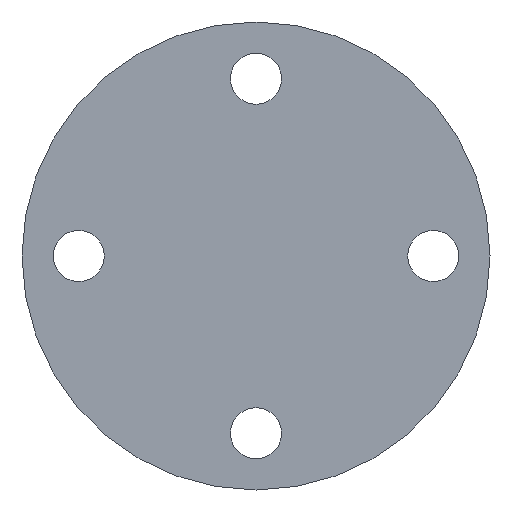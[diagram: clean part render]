
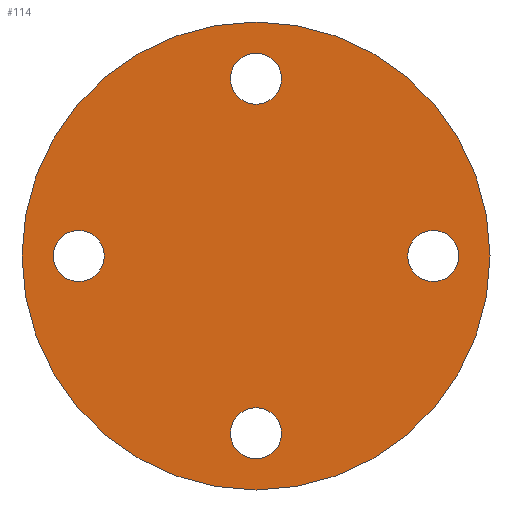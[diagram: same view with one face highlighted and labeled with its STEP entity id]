
A CAD part, front view. The second image highlights one B-rep face of the part: STEP entity #114.
In plain terms, the highlighted planar face has unit normal (0, -1, 0).
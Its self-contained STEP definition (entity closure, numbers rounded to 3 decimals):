
#13=PLANE($,#132);
#19=FACE_BOUND($,#43,.T.);
#20=FACE_BOUND($,#44,.T.);
#21=FACE_BOUND($,#45,.T.);
#22=FACE_BOUND($,#46,.T.);
#23=FACE_BOUND($,#47,.T.);
#43=EDGE_LOOP($,(#93));
#44=EDGE_LOOP($,(#94));
#45=EDGE_LOOP($,(#95));
#46=EDGE_LOOP($,(#96));
#47=EDGE_LOOP($,(#97));
#56=CIRCLE($,#122,9.);
#58=CIRCLE($,#125,9.);
#60=CIRCLE($,#128,9.);
#62=CIRCLE($,#131,9.);
#63=CIRCLE($,#133,82.5);
#66=VERTEX_POINT($,#177);
#68=VERTEX_POINT($,#182);
#70=VERTEX_POINT($,#187);
#72=VERTEX_POINT($,#192);
#73=VERTEX_POINT($,#195);
#76=EDGE_CURVE($,#66,#66,#56,.T.);
#78=EDGE_CURVE($,#68,#68,#58,.T.);
#80=EDGE_CURVE($,#70,#70,#60,.T.);
#82=EDGE_CURVE($,#72,#72,#62,.T.);
#83=EDGE_CURVE($,#73,#73,#63,.T.);
#93=ORIENTED_EDGE($,*,*,#76,.T.);
#94=ORIENTED_EDGE($,*,*,#78,.T.);
#95=ORIENTED_EDGE($,*,*,#80,.T.);
#96=ORIENTED_EDGE($,*,*,#82,.T.);
#97=ORIENTED_EDGE($,*,*,#83,.F.);
#114=ADVANCED_FACE($,(#19,#20,#21,#22,#23),#13,.T.);
#122=AXIS2_PLACEMENT_3D($,#178,#143,#144);
#125=AXIS2_PLACEMENT_3D($,#183,#149,#150);
#128=AXIS2_PLACEMENT_3D($,#188,#155,#156);
#131=AXIS2_PLACEMENT_3D($,#193,#161,#162);
#132=AXIS2_PLACEMENT_3D($,#194,#163,#164);
#133=AXIS2_PLACEMENT_3D($,#196,#165,#166);
#143=DIRECTION('center_axis',(0.,1.,0.));
#144=DIRECTION('ref_axis',(0.,0.,1.));
#149=DIRECTION('center_axis',(0.,1.,0.));
#150=DIRECTION('ref_axis',(-1.,0.,0.));
#155=DIRECTION('center_axis',(0.,1.,0.));
#156=DIRECTION('ref_axis',(0.,0.,-1.));
#161=DIRECTION('center_axis',(0.,1.,0.));
#162=DIRECTION('ref_axis',(1.,0.,0.));
#163=DIRECTION('center_axis',(0.,-1.,0.));
#164=DIRECTION('ref_axis',(0.,0.,-1.));
#165=DIRECTION('center_axis',(0.,1.,0.));
#166=DIRECTION('ref_axis',(-1.,0.,0.));
#177=CARTESIAN_POINT('',(0.,0.,53.5));
#178=CARTESIAN_POINT('Origin',(0.,0.,62.5));
#182=CARTESIAN_POINT('',(-53.5,0.,0.));
#183=CARTESIAN_POINT('Origin',(-62.5,0.,0.));
#187=CARTESIAN_POINT('',(0.,0.,-53.5));
#188=CARTESIAN_POINT('Origin',(0.,0.,-62.5));
#192=CARTESIAN_POINT('',(53.5,0.,0.));
#193=CARTESIAN_POINT('Origin',(62.5,0.,0.));
#194=CARTESIAN_POINT('Origin',(-41.25,0.,0.));
#195=CARTESIAN_POINT('',(-82.5,0.,0.));
#196=CARTESIAN_POINT('Origin',(0.,0.,0.));
